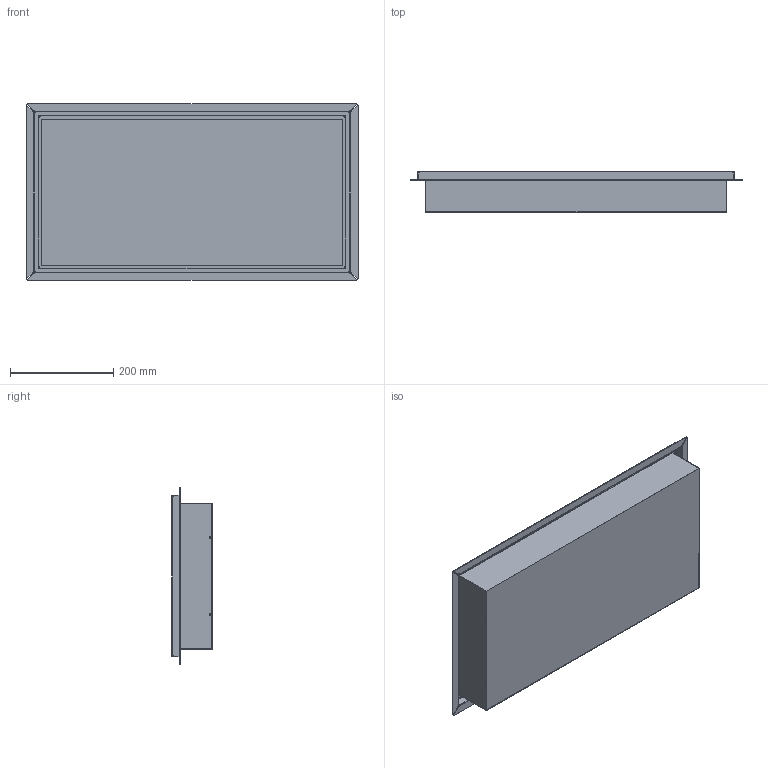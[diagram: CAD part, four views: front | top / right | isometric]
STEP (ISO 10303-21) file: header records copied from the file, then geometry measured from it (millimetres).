
FILE_DESCRIPTION(/* description */ (''),/* implementation_level */ '2;1');
FILE_NAME(/* name */ 'C:/Users/elena/Desktop/Corner QNR 30x60.step',/* time_stamp */ '2020-06-17T13:28:44+02:00',/* author */ (''),/* organization */ (''),/* preprocessor_version */ 'ST-DEVELOPER v18.1',/* originating_system */ 'Autodesk Translation Framework v9.3.0.1241',/* authorisation */ '');
FILE_SCHEMA (('AUTOMOTIVE_DESIGN { 1 0 10303 214 3 1 1 }'));
Length unit declared in the file: millimetre
Products named in the file (1): (Unsaved)
Bounding box: 642 x 79 x 342 mm (x, y, z)
Volume: 919406.5 mm3; surface area: 1147830.2 mm2
Topology: 3 solids, 3 shells, 147 faces, 353 edges, 206 vertices
Faces by surface type: plane 85, cylinder 58, bspline 4
Entity records: 4846 total; most frequent: CARTESIAN_POINT 1333, DIRECTION 744, ORIENTED_EDGE 706, EDGE_CURVE 353, AXIS2_PLACEMENT_3D 255, LINE 234, VECTOR 234, VERTEX_POINT 206
